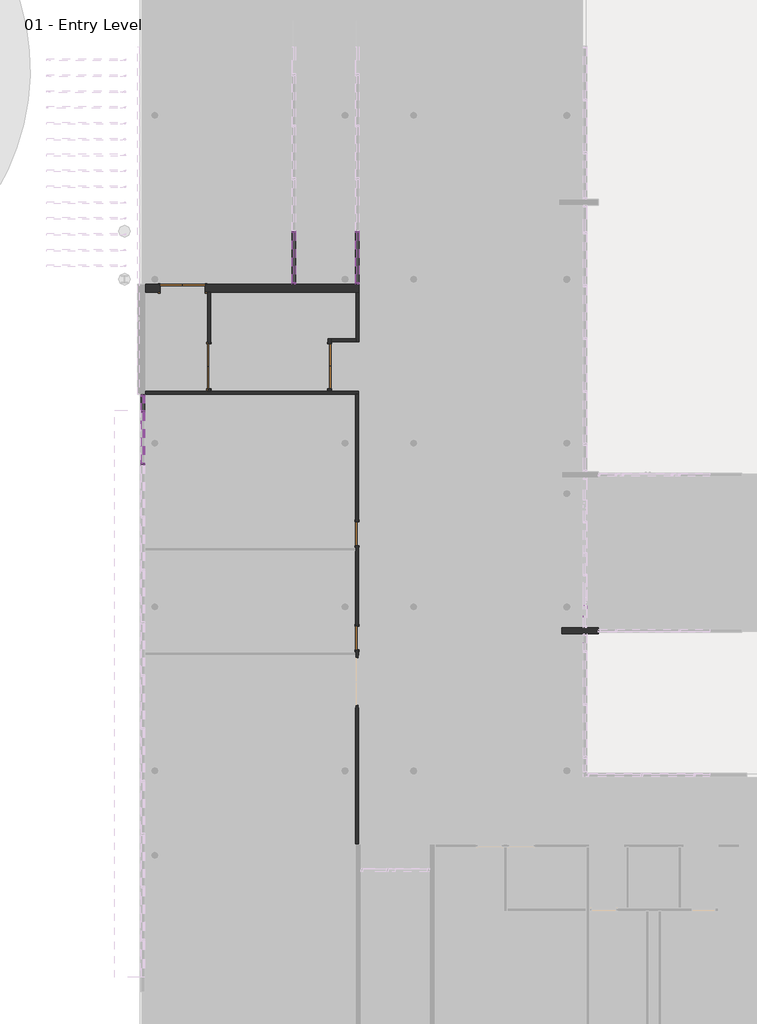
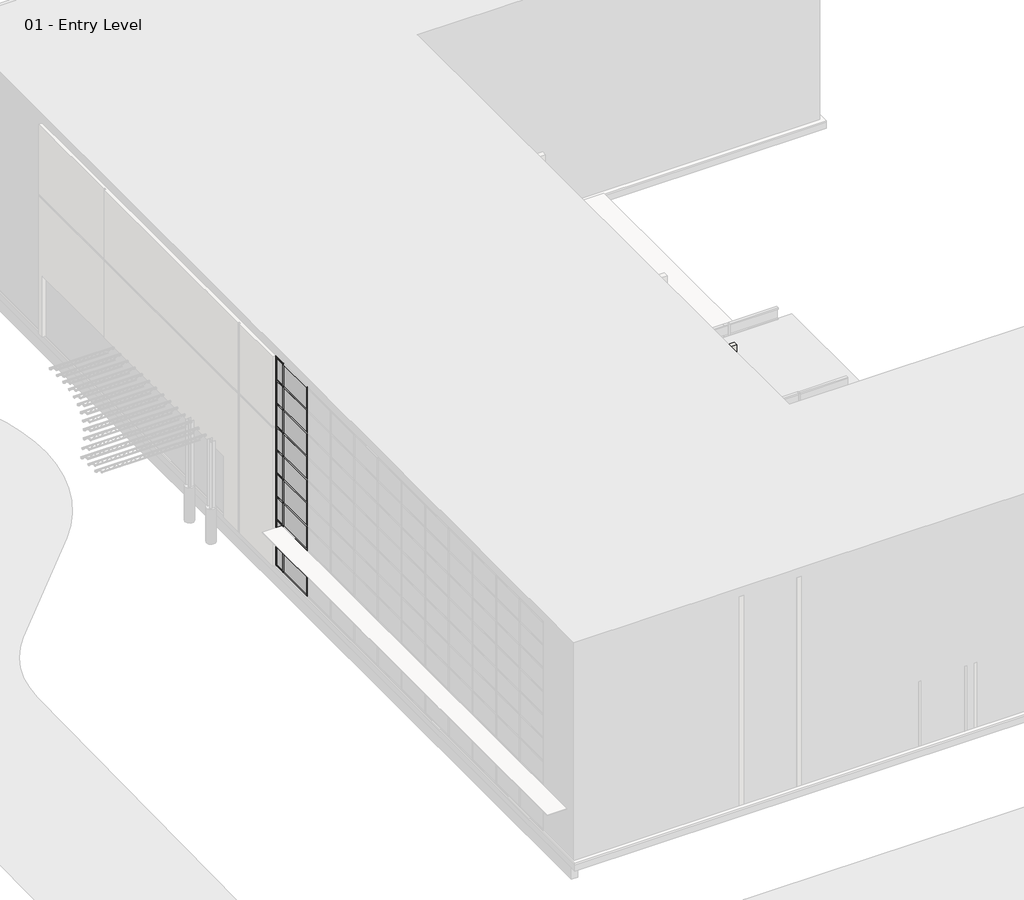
# One storey, part 12 of 35: 72 members, 24 plates, 8 walls, 5 doors.
"""IFC4 building model written with IfcOpenShell, lengths in millimetres."""

from ifc_helpers import new_model, si_unit, frame, origin, origin_with_axes, place, context, project, spatial, polyline, outline, extrude, faceted_brep, transform, mapped, element, save
from components import door_bdee7c2d, door_80fcf8b2, door_305aa2a5, member_2b49869a, member_75074519, member_18e22e2d, member_9193c932, member_391b434c, member_9e90ae50, member_4f18b2ac, member_7a85b04f, member_fbc627c7, member_73c075c8, member_ece69ae7, member_e5d39754, member_5aa65f11, member_47bfaf8a, member_5d67b9fc, member_c327c56d, member_ec52078f, member_cc8ff548, system_panel_glazed_ac179f57, system_panel_glazed_1b9d6098, system_panel_glazed_70da479d, system_panel_glazed_9419342d, system_panel_glazed_b3ddbf8e, system_panel_glazed_346f81d9, system_panel_glazed_d60e1f89, system_panel_solid_b376696c, system_panel_solid_77e8b053, system_panel_solid_89b132cb, system_panel_solid_f04240b3

model = new_model("IFC4")

# Units and contexts
model_context = context("Model", 3, world=origin())
ifc_project = project(units=[si_unit("LENGTHUNIT", "METRE", prefix="MILLI")], contexts=[model_context])

# Site, building, storey
site = spatial("IfcSite", under=ifc_project)
building = spatial("IfcBuilding", under=site)
storey = spatial("IfcBuildingStorey", under=building, Name="01 - Entry Level", Elevation=0.0)

# Doors
placement = place(None, origin())
door_shape = door_bdee7c2d(model_context)
element("IfcDoor", 1, ObjectType="Double-Flush : 68\" x 84\"", at=placement, inside=storey, context=model_context, shape_type="MappedRepresentation", body=[
    mapped(door_shape, transform((1702.7207476, 29709.9875, 0.0), x_axis=(1.0, 0.0, 0.0), y_axis=(0.0, 1.0, 0.0), z_axis=(0.0, 0.0, 1.0))),
])
door_2_shape = door_80fcf8b2(model_context)
element("IfcDoor", 2, ObjectType="Double-Flush : 68\" x 84\"", at=placement, inside=storey, context=model_context, shape_type="MappedRepresentation", body=[
    mapped(door_2_shape, transform((2718.7207476, 26711.2, 0.0), x_axis=(0.0, 1.0, 0.0), y_axis=(-1.0, 0.0, 0.0), z_axis=(0.0, 0.0, 1.0))),
])
element("IfcDoor", 3, ObjectType="Double-Flush : 68\" x 84\"", at=placement, inside=storey, context=model_context, shape_type="MappedRepresentation", body=[
    mapped(door_2_shape, transform((7354.2207476, 26711.2, 0.0), x_axis=(0.0, -1.0, 0.0), y_axis=(1.0, 0.0, 0.0), z_axis=(0.0, 0.0, 1.0))),
])
door_3_shape = door_305aa2a5(model_context)
element("IfcDoor", 4, ObjectType="Single-Flush : 36\" x 84\"", at=placement, inside=storey, context=model_context, shape_type="MappedRepresentation", body=[
    mapped(door_3_shape, transform((8414.6707476, 20285.0, 0.0), x_axis=(0.0, -1.0, 0.0), y_axis=(1.0, 0.0, 0.0), z_axis=(0.0, 0.0, 1.0))),
])
element("IfcDoor", 5, ObjectType="Single-Flush : 36\" x 84\"", at=placement, inside=storey, context=model_context, shape_type="MappedRepresentation", body=[
    mapped(door_3_shape, transform((8414.6707476, 16271.8, 0.0), x_axis=(0.0, -1.0, 0.0), y_axis=(1.0, 0.0, 0.0), z_axis=(0.0, 0.0, 1.0))),
])

# Members
member_shape = member_2b49869a(model_context)
element("IfcMember", 6, ObjectType="Rectangular Mullion : 2.5\" x 5\" rectangular", at=placement, inside=storey, context=model_context, shape_type="MappedRepresentation", body=[
    mapped(member_shape, transform((178.7207476, 24984.0, 9753.6), x_axis=(0.0, -1.0, 0.0), y_axis=(-1.0, 0.0, 0.0), z_axis=(0.0, 0.0, -1.0))),
])
element("IfcMember", 7, ObjectType="Rectangular Mullion : 2.5\" x 5\" rectangular", at=placement, inside=storey, context=model_context, shape_type="MappedRepresentation", body=[
    mapped(member_shape, transform((178.7207476, 22952.0, 9753.6), x_axis=(0.0, -1.0, 0.0), y_axis=(-1.0, 0.0, 0.0), z_axis=(0.0, 0.0, -1.0))),
])
member_2_shape = member_75074519(model_context)
element("IfcMember", 8, ObjectType="Rectangular Mullion : 2.5\" x 5\" rectangular", at=placement, inside=storey, context=model_context, shape_type="MappedRepresentation", body=[
    mapped(member_2_shape, transform((178.7207476, 25631.7, 10972.8), x_axis=(0.0, 1.0, 0.0), y_axis=(-1.0, 0.0, 0.0), z_axis=(0.0, 0.0, 1.0))),
])
element("IfcMember", 9, ObjectType="Rectangular Mullion : 2.5\" x 5\" rectangular", at=placement, inside=storey, context=model_context, shape_type="MappedRepresentation", body=[
    mapped(member_2_shape, transform((17184.0207476, 16665.5, 10972.8), x_axis=(0.0, -1.0, 0.0), y_axis=(1.0, 0.0, 0.0), z_axis=(0.0, 0.0, 1.0))),
])
member_3_shape = member_18e22e2d(model_context)
element("IfcMember", 10, ObjectType="Rectangular Mullion : 2.5\" x 5\" rectangular", at=placement, inside=storey, context=model_context, shape_type="MappedRepresentation", body=[
    mapped(member_3_shape, transform((5982.6207476, 31895.975, 2438.4), x_axis=(0.0, 1.0, 0.0), y_axis=(1.0, 0.0, 0.0), z_axis=(0.0, 0.0, -1.0))),
])
element("IfcMember", 11, ObjectType="Rectangular Mullion : 2.5\" x 5\" rectangular", at=placement, inside=storey, context=model_context, shape_type="MappedRepresentation", body=[
    mapped(member_3_shape, transform((8421.0207476, 31895.975, 2438.4), x_axis=(0.0, 1.0, 0.0), y_axis=(1.0, 0.0, 0.0), z_axis=(0.0, 0.0, -1.0))),
])
member_4_shape = member_9193c932(model_context)
element("IfcMember", 12, ObjectType="Rectangular Mullion : 2.5\" x 5\" rectangular", at=placement, inside=storey, context=model_context, shape_type="MappedRepresentation", body=[
    mapped(member_4_shape, transform((5982.6207476, 29863.975, 3403.6), x_axis=(0.0, -1.0, 0.0), y_axis=(1.0, 0.0, 0.0), z_axis=(0.0, 0.0, 1.0))),
])
element("IfcMember", 13, ObjectType="Rectangular Mullion : 2.5\" x 5\" rectangular", at=placement, inside=storey, context=model_context, shape_type="MappedRepresentation", body=[
    mapped(member_4_shape, transform((8421.0207476, 29863.975, 3403.6), x_axis=(0.0, -1.0, 0.0), y_axis=(1.0, 0.0, 0.0), z_axis=(0.0, 0.0, 1.0))),
])
member_5_shape = member_391b434c(model_context)
element("IfcMember", 14, ObjectType="Rectangular Mullion : 2.5\" x 5\" rectangular", at=placement, inside=storey, context=model_context, shape_type="MappedRepresentation", body=[
    mapped(member_5_shape, transform((178.7207476, 24952.25, 0.0), x_axis=(0.0, 0.0, -1.0), y_axis=(-1.0, 0.0, 0.0), z_axis=(0.0, 1.0, 0.0))),
])
member_6_shape = member_9e90ae50(model_context)
element("IfcMember", 15, ObjectType="Rectangular Mullion : 2.5\" x 5\" rectangular", at=placement, inside=storey, context=model_context, shape_type="MappedRepresentation", body=[
    mapped(member_6_shape, transform((178.7207476, 22983.75, 9753.6), x_axis=(0.0, 0.0, 1.0), y_axis=(-1.0, 0.0, 0.0), z_axis=(0.0, -1.0, 0.0))),
])
element("IfcMember", 16, ObjectType="Rectangular Mullion : 2.5\" x 5\" rectangular", at=placement, inside=storey, context=model_context, shape_type="MappedRepresentation", body=[
    mapped(member_shape, transform((178.7207476, 24984.0, 0.0), x_axis=(0.0, -1.0, 0.0), y_axis=(-1.0, 0.0, 0.0), z_axis=(0.0, 0.0, -1.0))),
])
element("IfcMember", 17, ObjectType="Rectangular Mullion : 2.5\" x 5\" rectangular", at=placement, inside=storey, context=model_context, shape_type="MappedRepresentation", body=[
    mapped(member_shape, transform((178.7207476, 22952.0, 0.0), x_axis=(0.0, -1.0, 0.0), y_axis=(-1.0, 0.0, 0.0), z_axis=(0.0, 0.0, -1.0))),
])
element("IfcMember", 18, ObjectType="Rectangular Mullion : 2.5\" x 5\" rectangular", at=placement, inside=storey, context=model_context, shape_type="MappedRepresentation", body=[
    mapped(member_shape, transform((178.7207476, 24984.0, 1219.2), x_axis=(0.0, -1.0, 0.0), y_axis=(-1.0, 0.0, 0.0), z_axis=(0.0, 0.0, -1.0))),
])
element("IfcMember", 19, ObjectType="Rectangular Mullion : 2.5\" x 5\" rectangular", at=placement, inside=storey, context=model_context, shape_type="MappedRepresentation", body=[
    mapped(member_shape, transform((178.7207476, 22952.0, 1219.2), x_axis=(0.0, -1.0, 0.0), y_axis=(-1.0, 0.0, 0.0), z_axis=(0.0, 0.0, -1.0))),
])
element("IfcMember", 20, ObjectType="Rectangular Mullion : 2.5\" x 5\" rectangular", at=placement, inside=storey, context=model_context, shape_type="MappedRepresentation", body=[
    mapped(member_shape, transform((178.7207476, 24984.0, 2438.4), x_axis=(0.0, -1.0, 0.0), y_axis=(-1.0, 0.0, 0.0), z_axis=(0.0, 0.0, -1.0))),
])
element("IfcMember", 21, ObjectType="Rectangular Mullion : 2.5\" x 5\" rectangular", at=placement, inside=storey, context=model_context, shape_type="MappedRepresentation", body=[
    mapped(member_shape, transform((178.7207476, 22952.0, 2438.4), x_axis=(0.0, -1.0, 0.0), y_axis=(-1.0, 0.0, 0.0), z_axis=(0.0, 0.0, -1.0))),
])
element("IfcMember", 22, ObjectType="Rectangular Mullion : 2.5\" x 5\" rectangular", at=placement, inside=storey, context=model_context, shape_type="MappedRepresentation", body=[
    mapped(member_shape, transform((178.7207476, 24984.0, 3657.6), x_axis=(0.0, -1.0, 0.0), y_axis=(-1.0, 0.0, 0.0), z_axis=(0.0, 0.0, -1.0))),
])
element("IfcMember", 23, ObjectType="Rectangular Mullion : 2.5\" x 5\" rectangular", at=placement, inside=storey, context=model_context, shape_type="MappedRepresentation", body=[
    mapped(member_shape, transform((178.7207476, 22952.0, 3657.6), x_axis=(0.0, -1.0, 0.0), y_axis=(-1.0, 0.0, 0.0), z_axis=(0.0, 0.0, -1.0))),
])
element("IfcMember", 24, ObjectType="Rectangular Mullion : 2.5\" x 5\" rectangular", at=placement, inside=storey, context=model_context, shape_type="MappedRepresentation", body=[
    mapped(member_shape, transform((178.7207476, 24984.0, 4876.8), x_axis=(0.0, -1.0, 0.0), y_axis=(-1.0, 0.0, 0.0), z_axis=(0.0, 0.0, -1.0))),
])
element("IfcMember", 25, ObjectType="Rectangular Mullion : 2.5\" x 5\" rectangular", at=placement, inside=storey, context=model_context, shape_type="MappedRepresentation", body=[
    mapped(member_shape, transform((178.7207476, 22952.0, 4876.8), x_axis=(0.0, -1.0, 0.0), y_axis=(-1.0, 0.0, 0.0), z_axis=(0.0, 0.0, -1.0))),
])
element("IfcMember", 26, ObjectType="Rectangular Mullion : 2.5\" x 5\" rectangular", at=placement, inside=storey, context=model_context, shape_type="MappedRepresentation", body=[
    mapped(member_shape, transform((178.7207476, 24984.0, 6096.0), x_axis=(0.0, -1.0, 0.0), y_axis=(-1.0, 0.0, 0.0), z_axis=(0.0, 0.0, -1.0))),
])
element("IfcMember", 27, ObjectType="Rectangular Mullion : 2.5\" x 5\" rectangular", at=placement, inside=storey, context=model_context, shape_type="MappedRepresentation", body=[
    mapped(member_shape, transform((178.7207476, 22952.0, 6096.0), x_axis=(0.0, -1.0, 0.0), y_axis=(-1.0, 0.0, 0.0), z_axis=(0.0, 0.0, -1.0))),
])
element("IfcMember", 28, ObjectType="Rectangular Mullion : 2.5\" x 5\" rectangular", at=placement, inside=storey, context=model_context, shape_type="MappedRepresentation", body=[
    mapped(member_shape, transform((178.7207476, 24984.0, 7315.2), x_axis=(0.0, -1.0, 0.0), y_axis=(-1.0, 0.0, 0.0), z_axis=(0.0, 0.0, -1.0))),
])
element("IfcMember", 29, ObjectType="Rectangular Mullion : 2.5\" x 5\" rectangular", at=placement, inside=storey, context=model_context, shape_type="MappedRepresentation", body=[
    mapped(member_shape, transform((178.7207476, 22952.0, 7315.2), x_axis=(0.0, -1.0, 0.0), y_axis=(-1.0, 0.0, 0.0), z_axis=(0.0, 0.0, -1.0))),
])
element("IfcMember", 30, ObjectType="Rectangular Mullion : 2.5\" x 5\" rectangular", at=placement, inside=storey, context=model_context, shape_type="MappedRepresentation", body=[
    mapped(member_shape, transform((178.7207476, 24984.0, 8534.4), x_axis=(0.0, -1.0, 0.0), y_axis=(-1.0, 0.0, 0.0), z_axis=(0.0, 0.0, -1.0))),
])
element("IfcMember", 31, ObjectType="Rectangular Mullion : 2.5\" x 5\" rectangular", at=placement, inside=storey, context=model_context, shape_type="MappedRepresentation", body=[
    mapped(member_shape, transform((178.7207476, 22952.0, 8534.4), x_axis=(0.0, -1.0, 0.0), y_axis=(-1.0, 0.0, 0.0), z_axis=(0.0, 0.0, -1.0))),
])
member_7_shape = member_4f18b2ac(model_context)
element("IfcMember", 32, ObjectType="Rectangular Mullion : 2.5\" x 5\" rectangular", at=placement, inside=storey, context=model_context, shape_type="MappedRepresentation", body=[
    mapped(member_7_shape, transform((5982.6207476, 29927.475, 0.0), x_axis=(0.0, 0.0, -1.0), y_axis=(1.0, 0.0, 0.0), z_axis=(0.0, -1.0, 0.0))),
])
element("IfcMember", 33, ObjectType="Rectangular Mullion : 2.5\" x 5\" rectangular", at=placement, inside=storey, context=model_context, shape_type="MappedRepresentation", body=[
    mapped(member_7_shape, transform((8421.0207476, 29927.475, 0.0), x_axis=(0.0, 0.0, -1.0), y_axis=(1.0, 0.0, 0.0), z_axis=(0.0, -1.0, 0.0))),
])
element("IfcMember", 34, ObjectType="Rectangular Mullion : 2.5\" x 5\" rectangular", at=placement, inside=storey, context=model_context, shape_type="MappedRepresentation", body=[
    mapped(member_7_shape, transform((5982.6207476, 31864.225, 3403.6), x_axis=(0.0, 0.0, 1.0), y_axis=(1.0, 0.0, 0.0), z_axis=(0.0, 1.0, 0.0))),
])
element("IfcMember", 35, ObjectType="Rectangular Mullion : 2.5\" x 5\" rectangular", at=placement, inside=storey, context=model_context, shape_type="MappedRepresentation", body=[
    mapped(member_7_shape, transform((8421.0207476, 31864.225, 3403.6), x_axis=(0.0, 0.0, 1.0), y_axis=(1.0, 0.0, 0.0), z_axis=(0.0, 1.0, 0.0))),
])
element("IfcMember", 36, ObjectType="Rectangular Mullion : 2.5\" x 5\" rectangular", at=placement, inside=storey, context=model_context, shape_type="MappedRepresentation", body=[
    mapped(member_5_shape, transform((5982.6207476, 31927.725, 0.0), x_axis=(0.0, 0.0, -1.0), y_axis=(1.0, 0.0, 0.0), z_axis=(0.0, -1.0, 0.0))),
])
element("IfcMember", 37, ObjectType="Rectangular Mullion : 2.5\" x 5\" rectangular", at=placement, inside=storey, context=model_context, shape_type="MappedRepresentation", body=[
    mapped(member_5_shape, transform((8421.0207476, 31927.725, 0.0), x_axis=(0.0, 0.0, -1.0), y_axis=(1.0, 0.0, 0.0), z_axis=(0.0, -1.0, 0.0))),
])
member_8_shape = member_7a85b04f(model_context)
element("IfcMember", 38, ObjectType="Rectangular Mullion : 2.5\" x 5\" rectangular", at=placement, inside=storey, context=model_context, shape_type="MappedRepresentation", body=[
    mapped(member_8_shape, transform((5982.6207476, 31864.225, 1219.2), x_axis=(0.0, 0.0, 1.0), y_axis=(1.0, 0.0, 0.0), z_axis=(0.0, 1.0, 0.0))),
])
element("IfcMember", 39, ObjectType="Rectangular Mullion : 2.5\" x 5\" rectangular", at=placement, inside=storey, context=model_context, shape_type="MappedRepresentation", body=[
    mapped(member_8_shape, transform((5982.6207476, 31864.225, 2438.4), x_axis=(0.0, 0.0, 1.0), y_axis=(1.0, 0.0, 0.0), z_axis=(0.0, 1.0, 0.0))),
])
element("IfcMember", 40, ObjectType="Rectangular Mullion : 2.5\" x 5\" rectangular", at=placement, inside=storey, context=model_context, shape_type="MappedRepresentation", body=[
    mapped(member_8_shape, transform((8421.0207476, 31864.225, 1219.2), x_axis=(0.0, 0.0, 1.0), y_axis=(1.0, 0.0, 0.0), z_axis=(0.0, 1.0, 0.0))),
])
element("IfcMember", 41, ObjectType="Rectangular Mullion : 2.5\" x 5\" rectangular", at=placement, inside=storey, context=model_context, shape_type="MappedRepresentation", body=[
    mapped(member_8_shape, transform((8421.0207476, 31864.225, 2438.4), x_axis=(0.0, 0.0, 1.0), y_axis=(1.0, 0.0, 0.0), z_axis=(0.0, 1.0, 0.0))),
])
element("IfcMember", 42, ObjectType="Rectangular Mullion : 2.5\" x 5\" rectangular", at=placement, inside=storey, context=model_context, shape_type="MappedRepresentation", body=[
    mapped(member_shape, transform((5982.6207476, 31895.975, 0.0), x_axis=(0.0, 1.0, 0.0), y_axis=(1.0, 0.0, 0.0), z_axis=(0.0, 0.0, -1.0))),
])
element("IfcMember", 43, ObjectType="Rectangular Mullion : 2.5\" x 5\" rectangular", at=placement, inside=storey, context=model_context, shape_type="MappedRepresentation", body=[
    mapped(member_shape, transform((8421.0207476, 31895.975, 0.0), x_axis=(0.0, 1.0, 0.0), y_axis=(1.0, 0.0, 0.0), z_axis=(0.0, 0.0, -1.0))),
])
member_9_shape = member_fbc627c7(model_context)
element("IfcMember", 44, ObjectType="Rectangular Mullion : 2.5\" x 5\" rectangular", at=placement, inside=storey, context=model_context, shape_type="MappedRepresentation", body=[
    mapped(member_9_shape, transform((17184.0207476, 16665.5, 7598.3874103), x_axis=(0.0, -0.31622776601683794, -0.9486832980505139), y_axis=(1.0, 0.0, 0.0), z_axis=(0.0, -0.9486832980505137, 0.3162277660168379))),
])
element("IfcMember", 45, ObjectType="Rectangular Mullion : 2.5\" x 5\" rectangular", at=placement, inside=storey, context=model_context, shape_type="MappedRepresentation", body=[
    mapped(member_2_shape, transform((17184.0207476, 16436.9, 0.0), x_axis=(0.0, 1.0, 0.0), y_axis=(1.0, 0.0, 0.0), z_axis=(0.0, 0.0, -1.0))),
])
element("IfcMember", 46, ObjectType="Rectangular Mullion : 2.5\" x 5\" rectangular", at=placement, inside=storey, context=model_context, shape_type="MappedRepresentation", body=[
    mapped(member_2_shape, transform((17184.0207476, 16436.9, 1219.2), x_axis=(0.0, 1.0, 0.0), y_axis=(1.0, 0.0, 0.0), z_axis=(0.0, 0.0, -1.0))),
])
element("IfcMember", 47, ObjectType="Rectangular Mullion : 2.5\" x 5\" rectangular", at=placement, inside=storey, context=model_context, shape_type="MappedRepresentation", body=[
    mapped(member_2_shape, transform((178.7207476, 25631.7, 1219.2), x_axis=(0.0, 1.0, 0.0), y_axis=(-1.0, 0.0, 0.0), z_axis=(0.0, 0.0, 1.0))),
])
element("IfcMember", 48, ObjectType="Rectangular Mullion : 2.5\" x 5\" rectangular", at=placement, inside=storey, context=model_context, shape_type="MappedRepresentation", body=[
    mapped(member_2_shape, transform((178.7207476, 25631.7, 2438.4), x_axis=(0.0, 1.0, 0.0), y_axis=(-1.0, 0.0, 0.0), z_axis=(0.0, 0.0, 1.0))),
])
element("IfcMember", 49, ObjectType="Rectangular Mullion : 2.5\" x 5\" rectangular", at=placement, inside=storey, context=model_context, shape_type="MappedRepresentation", body=[
    mapped(member_2_shape, transform((178.7207476, 25631.7, 3657.6), x_axis=(0.0, 1.0, 0.0), y_axis=(-1.0, 0.0, 0.0), z_axis=(0.0, 0.0, 1.0))),
])
element("IfcMember", 50, ObjectType="Rectangular Mullion : 2.5\" x 5\" rectangular", at=placement, inside=storey, context=model_context, shape_type="MappedRepresentation", body=[
    mapped(member_2_shape, transform((178.7207476, 25631.7, 4876.8), x_axis=(0.0, 1.0, 0.0), y_axis=(-1.0, 0.0, 0.0), z_axis=(0.0, 0.0, 1.0))),
])
element("IfcMember", 51, ObjectType="Rectangular Mullion : 2.5\" x 5\" rectangular", at=placement, inside=storey, context=model_context, shape_type="MappedRepresentation", body=[
    mapped(member_2_shape, transform((178.7207476, 25631.7, 6096.0), x_axis=(0.0, 1.0, 0.0), y_axis=(-1.0, 0.0, 0.0), z_axis=(0.0, 0.0, 1.0))),
])
element("IfcMember", 52, ObjectType="Rectangular Mullion : 2.5\" x 5\" rectangular", at=placement, inside=storey, context=model_context, shape_type="MappedRepresentation", body=[
    mapped(member_2_shape, transform((178.7207476, 25631.7, 7315.2), x_axis=(0.0, 1.0, 0.0), y_axis=(-1.0, 0.0, 0.0), z_axis=(0.0, 0.0, 1.0))),
])
element("IfcMember", 53, ObjectType="Rectangular Mullion : 2.5\" x 5\" rectangular", at=placement, inside=storey, context=model_context, shape_type="MappedRepresentation", body=[
    mapped(member_2_shape, transform((178.7207476, 25631.7, 8534.4), x_axis=(0.0, 1.0, 0.0), y_axis=(-1.0, 0.0, 0.0), z_axis=(0.0, 0.0, 1.0))),
])
element("IfcMember", 54, ObjectType="Rectangular Mullion : 2.5\" x 5\" rectangular", at=placement, inside=storey, context=model_context, shape_type="MappedRepresentation", body=[
    mapped(member_2_shape, transform((178.7207476, 25631.7, 9753.6), x_axis=(0.0, 1.0, 0.0), y_axis=(-1.0, 0.0, 0.0), z_axis=(0.0, 0.0, 1.0))),
])
element("IfcMember", 55, ObjectType="Rectangular Mullion : 2.5\" x 5\" rectangular", at=placement, inside=storey, context=model_context, shape_type="MappedRepresentation", body=[
    mapped(member_2_shape, transform((5982.6207476, 29863.975, 1219.2), x_axis=(0.0, -1.0, 0.0), y_axis=(1.0, 0.0, 0.0), z_axis=(0.0, 0.0, 1.0))),
])
element("IfcMember", 56, ObjectType="Rectangular Mullion : 2.5\" x 5\" rectangular", at=placement, inside=storey, context=model_context, shape_type="MappedRepresentation", body=[
    mapped(member_2_shape, transform((8421.0207476, 29863.975, 1219.2), x_axis=(0.0, -1.0, 0.0), y_axis=(1.0, 0.0, 0.0), z_axis=(0.0, 0.0, 1.0))),
])
member_10_shape = member_73c075c8(model_context)
element("IfcMember", 57, ObjectType="Rectangular Mullion : 2.5\" x 5\" rectangular", at=placement, inside=storey, context=model_context, shape_type="MappedRepresentation", body=[
    mapped(member_10_shape, transform((178.7207476, 25568.2, 0.0), x_axis=(0.0, 0.0, -1.0), y_axis=(-1.0, 0.0, 0.0), z_axis=(0.0, 1.0, 0.0))),
])
element("IfcMember", 58, ObjectType="Rectangular Mullion : 2.5\" x 5\" rectangular", at=placement, inside=storey, context=model_context, shape_type="MappedRepresentation", body=[
    mapped(member_10_shape, transform((178.7207476, 25015.75, 10972.8), x_axis=(0.0, 0.0, 1.0), y_axis=(-1.0, 0.0, 0.0), z_axis=(0.0, -1.0, 0.0))),
])
member_11_shape = member_ece69ae7(model_context)
element("IfcMember", 59, ObjectType="Rectangular Mullion : 2.5\" x 5\" rectangular", at=placement, inside=storey, context=model_context, shape_type="MappedRepresentation", body=[
    mapped(member_11_shape, transform((178.7207476, 25015.75, 1219.2), x_axis=(0.0, 0.0, 1.0), y_axis=(-1.0, 0.0, 0.0), z_axis=(0.0, -1.0, 0.0))),
])
element("IfcMember", 60, ObjectType="Rectangular Mullion : 2.5\" x 5\" rectangular", at=placement, inside=storey, context=model_context, shape_type="MappedRepresentation", body=[
    mapped(member_11_shape, transform((178.7207476, 25015.75, 2438.4), x_axis=(0.0, 0.0, 1.0), y_axis=(-1.0, 0.0, 0.0), z_axis=(0.0, -1.0, 0.0))),
])
element("IfcMember", 61, ObjectType="Rectangular Mullion : 2.5\" x 5\" rectangular", at=placement, inside=storey, context=model_context, shape_type="MappedRepresentation", body=[
    mapped(member_11_shape, transform((178.7207476, 25015.75, 3657.6), x_axis=(0.0, 0.0, 1.0), y_axis=(-1.0, 0.0, 0.0), z_axis=(0.0, -1.0, 0.0))),
])
element("IfcMember", 62, ObjectType="Rectangular Mullion : 2.5\" x 5\" rectangular", at=placement, inside=storey, context=model_context, shape_type="MappedRepresentation", body=[
    mapped(member_11_shape, transform((178.7207476, 25015.75, 4876.8), x_axis=(0.0, 0.0, 1.0), y_axis=(-1.0, 0.0, 0.0), z_axis=(0.0, -1.0, 0.0))),
])
element("IfcMember", 63, ObjectType="Rectangular Mullion : 2.5\" x 5\" rectangular", at=placement, inside=storey, context=model_context, shape_type="MappedRepresentation", body=[
    mapped(member_11_shape, transform((178.7207476, 25015.75, 6096.0), x_axis=(0.0, 0.0, 1.0), y_axis=(-1.0, 0.0, 0.0), z_axis=(0.0, -1.0, 0.0))),
])
element("IfcMember", 64, ObjectType="Rectangular Mullion : 2.5\" x 5\" rectangular", at=placement, inside=storey, context=model_context, shape_type="MappedRepresentation", body=[
    mapped(member_11_shape, transform((178.7207476, 25015.75, 7315.2), x_axis=(0.0, 0.0, 1.0), y_axis=(-1.0, 0.0, 0.0), z_axis=(0.0, -1.0, 0.0))),
])
element("IfcMember", 65, ObjectType="Rectangular Mullion : 2.5\" x 5\" rectangular", at=placement, inside=storey, context=model_context, shape_type="MappedRepresentation", body=[
    mapped(member_11_shape, transform((178.7207476, 25015.75, 8534.4), x_axis=(0.0, 0.0, 1.0), y_axis=(-1.0, 0.0, 0.0), z_axis=(0.0, -1.0, 0.0))),
])
element("IfcMember", 66, ObjectType="Rectangular Mullion : 2.5\" x 5\" rectangular", at=placement, inside=storey, context=model_context, shape_type="MappedRepresentation", body=[
    mapped(member_11_shape, transform((178.7207476, 25015.75, 9753.6), x_axis=(0.0, 0.0, 1.0), y_axis=(-1.0, 0.0, 0.0), z_axis=(0.0, -1.0, 0.0))),
])
member_12_shape = member_e5d39754(model_context)
element("IfcMember", 67, ObjectType="Rectangular Mullion : 2.5\" x 5\" rectangular", at=placement, inside=storey, context=model_context, shape_type="MappedRepresentation", body=[
    mapped(member_12_shape, transform((17184.0207476, 16373.4, 10972.8), x_axis=(0.0, 0.0, 1.0), y_axis=(1.0, 0.0, 0.0), z_axis=(0.0, 1.0, 0.0))),
])
member_13_shape = member_5aa65f11(model_context)
element("IfcMember", 68, ObjectType="Rectangular Mullion : 2.5\" x 5\" rectangular", at=placement, inside=storey, context=model_context, shape_type="MappedRepresentation", body=[
    mapped(member_13_shape, transform((17752.4115197, 16551.2, 0.0), x_axis=(0.0, 0.0, -1.0), y_axis=(0.0, -1.0, 0.0), z_axis=(-1.0, 0.0, 0.0))),
])
member_14_shape = member_47bfaf8a(model_context)
element("IfcMember", 69, ObjectType="Rectangular Mullion : 2.5\" x 5\" rectangular", at=placement, inside=storey, context=model_context, shape_type="MappedRepresentation", body=[
    mapped(member_14_shape, transform((17688.9115197, 16551.2, 7315.2), x_axis=(-1.0, 0.0, 0.0), y_axis=(0.0, -1.0, 0.0), z_axis=(0.0, 0.0, 1.0))),
])
member_15_shape = member_5d67b9fc(model_context)
element("IfcMember", 70, ObjectType="Rectangular Mullion : 2.5\" x 5\" rectangular", at=placement, inside=storey, context=model_context, shape_type="MappedRepresentation", body=[
    mapped(member_15_shape, transform((5982.6207476, 31895.975, 2165.35), x_axis=(0.0, 1.0, 0.0), y_axis=(1.0, 0.0, 0.0), z_axis=(0.0, 0.0, -1.0))),
])
element("IfcMember", 71, ObjectType="Rectangular Mullion : 2.5\" x 5\" rectangular", at=placement, inside=storey, context=model_context, shape_type="MappedRepresentation", body=[
    mapped(member_15_shape, transform((8421.0207476, 31895.975, 2165.35), x_axis=(0.0, 1.0, 0.0), y_axis=(1.0, 0.0, 0.0), z_axis=(0.0, 0.0, -1.0))),
])
member_16_shape = member_c327c56d(model_context)
element("IfcMember", 72, ObjectType="Rectangular Mullion : 2.5\" x 5\" rectangular", at=placement, inside=storey, context=model_context, shape_type="MappedRepresentation", body=[
    mapped(member_16_shape, transform((5982.6207476, 29863.975, 2438.4), x_axis=(0.0, -1.0, 0.0), y_axis=(1.0, 0.0, 0.0), z_axis=(0.0, 0.0, 1.0))),
])
element("IfcMember", 73, ObjectType="Rectangular Mullion : 2.5\" x 5\" rectangular", at=placement, inside=storey, context=model_context, shape_type="MappedRepresentation", body=[
    mapped(member_16_shape, transform((8421.0207476, 29863.975, 2438.4), x_axis=(0.0, -1.0, 0.0), y_axis=(1.0, 0.0, 0.0), z_axis=(0.0, 0.0, 1.0))),
])
member_17_shape = member_ec52078f(model_context)
element("IfcMember", 74, ObjectType="Rectangular Mullion : 2.5\" x 5\" rectangular", at=placement, inside=storey, context=model_context, shape_type="MappedRepresentation", body=[
    mapped(member_17_shape, transform((5982.6207476, 31895.975, 1219.2), x_axis=(0.0, 1.0, 0.0), y_axis=(1.0, 0.0, 0.0), z_axis=(0.0, 0.0, -1.0))),
])
element("IfcMember", 75, ObjectType="Rectangular Mullion : 2.5\" x 5\" rectangular", at=placement, inside=storey, context=model_context, shape_type="MappedRepresentation", body=[
    mapped(member_17_shape, transform((8421.0207476, 31895.975, 1219.2), x_axis=(0.0, 1.0, 0.0), y_axis=(1.0, 0.0, 0.0), z_axis=(0.0, 0.0, -1.0))),
])
member_18_shape = member_cc8ff548(model_context)
element("IfcMember", 76, ObjectType="Rectangular Mullion : 2.5\" x 5\" rectangular", at=placement, inside=storey, context=model_context, shape_type="MappedRepresentation", body=[
    mapped(member_18_shape, transform((5982.6207476, 29863.975, 2165.35), x_axis=(0.0, -1.0, 0.0), y_axis=(1.0, 0.0, 0.0), z_axis=(0.0, 0.0, 1.0))),
])
element("IfcMember", 77, ObjectType="Rectangular Mullion : 2.5\" x 5\" rectangular", at=placement, inside=storey, context=model_context, shape_type="MappedRepresentation", body=[
    mapped(member_18_shape, transform((8421.0207476, 29863.975, 2165.35), x_axis=(0.0, -1.0, 0.0), y_axis=(1.0, 0.0, 0.0), z_axis=(0.0, 0.0, 1.0))),
])

# Plates
system_panel_glazed_shape = system_panel_glazed_ac179f57(model_context)
element("IfcPlate", 78, ObjectType="System Panel : Glazed", at=placement, inside=storey, context=model_context, shape_type="MappedRepresentation", body=[
    mapped(system_panel_glazed_shape, transform((5982.6207476, 30895.85, 63.5), x_axis=(0.0, 1.0, 0.0), y_axis=(-1.0, 0.0, 0.0), z_axis=(0.0, 0.0, 1.0))),
])
element("IfcPlate", 79, ObjectType="System Panel : Glazed", at=placement, inside=storey, context=model_context, shape_type="MappedRepresentation", body=[
    mapped(system_panel_glazed_shape, transform((8421.0207476, 30895.85, 63.5), x_axis=(0.0, 1.0, 0.0), y_axis=(-1.0, 0.0, 0.0), z_axis=(0.0, 0.0, 1.0))),
])
system_panel_glazed_2_shape = system_panel_glazed_1b9d6098(model_context)
element("IfcPlate", 80, ObjectType="System Panel : Glazed", at=placement, inside=storey, context=model_context, shape_type="MappedRepresentation", body=[
    mapped(system_panel_glazed_2_shape, transform((178.7207476, 23968.0, 63.5), x_axis=(0.0, -1.0, 0.0), y_axis=(1.0, 0.0, 0.0), z_axis=(0.0, 0.0, 1.0))),
])
system_panel_glazed_3_shape = system_panel_glazed_70da479d(model_context)
element("IfcPlate", 81, ObjectType="System Panel : Glazed", at=placement, inside=storey, context=model_context, shape_type="MappedRepresentation", body=[
    mapped(system_panel_glazed_3_shape, transform((178.7207476, 23968.0, 1250.95), x_axis=(0.0, -1.0, 0.0), y_axis=(1.0, 0.0, 0.0), z_axis=(0.0, 0.0, 1.0))),
])
element("IfcPlate", 82, ObjectType="System Panel : Glazed", at=placement, inside=storey, context=model_context, shape_type="MappedRepresentation", body=[
    mapped(system_panel_glazed_3_shape, transform((178.7207476, 23968.0, 3689.35), x_axis=(0.0, -1.0, 0.0), y_axis=(1.0, 0.0, 0.0), z_axis=(0.0, 0.0, 1.0))),
])
element("IfcPlate", 83, ObjectType="System Panel : Glazed", at=placement, inside=storey, context=model_context, shape_type="MappedRepresentation", body=[
    mapped(system_panel_glazed_3_shape, transform((178.7207476, 23968.0, 4908.55), x_axis=(0.0, -1.0, 0.0), y_axis=(1.0, 0.0, 0.0), z_axis=(0.0, 0.0, 1.0))),
])
element("IfcPlate", 84, ObjectType="System Panel : Glazed", at=placement, inside=storey, context=model_context, shape_type="MappedRepresentation", body=[
    mapped(system_panel_glazed_3_shape, transform((178.7207476, 23968.0, 7346.95), x_axis=(0.0, -1.0, 0.0), y_axis=(1.0, 0.0, 0.0), z_axis=(0.0, 0.0, 1.0))),
])
element("IfcPlate", 85, ObjectType="System Panel : Glazed", at=placement, inside=storey, context=model_context, shape_type="MappedRepresentation", body=[
    mapped(system_panel_glazed_3_shape, transform((178.7207476, 23968.0, 8566.15), x_axis=(0.0, -1.0, 0.0), y_axis=(1.0, 0.0, 0.0), z_axis=(0.0, 0.0, 1.0))),
])
system_panel_glazed_4_shape = system_panel_glazed_9419342d(model_context)
element("IfcPlate", 86, ObjectType="System Panel : Glazed", at=placement, inside=storey, context=model_context, shape_type="MappedRepresentation", body=[
    mapped(system_panel_glazed_4_shape, transform((5982.6207476, 30895.85, 2470.15), x_axis=(0.0, 1.0, 0.0), y_axis=(-1.0, 0.0, 0.0), z_axis=(0.0, 0.0, 1.0))),
])
element("IfcPlate", 87, ObjectType="System Panel : Glazed", at=placement, inside=storey, context=model_context, shape_type="MappedRepresentation", body=[
    mapped(system_panel_glazed_4_shape, transform((8421.0207476, 30895.85, 2470.15), x_axis=(0.0, 1.0, 0.0), y_axis=(-1.0, 0.0, 0.0), z_axis=(0.0, 0.0, 1.0))),
])
system_panel_glazed_5_shape = system_panel_glazed_b3ddbf8e(model_context)
element("IfcPlate", 88, ObjectType="System Panel : Glazed", at=placement, inside=storey, context=model_context, shape_type="MappedRepresentation", body=[
    mapped(system_panel_glazed_5_shape, transform((178.7207476, 25291.975, 63.5), x_axis=(0.0, -1.0, 0.0), y_axis=(1.0, 0.0, 0.0), z_axis=(0.0, 0.0, 1.0))),
])
system_panel_glazed_6_shape = system_panel_glazed_346f81d9(model_context)
element("IfcPlate", 89, ObjectType="System Panel : Glazed", at=placement, inside=storey, context=model_context, shape_type="MappedRepresentation", body=[
    mapped(system_panel_glazed_6_shape, transform((178.7207476, 25291.975, 1250.95), x_axis=(0.0, -1.0, 0.0), y_axis=(1.0, 0.0, 0.0), z_axis=(0.0, 0.0, 1.0))),
])
element("IfcPlate", 90, ObjectType="System Panel : Glazed", at=placement, inside=storey, context=model_context, shape_type="MappedRepresentation", body=[
    mapped(system_panel_glazed_6_shape, transform((178.7207476, 25291.975, 3689.35), x_axis=(0.0, -1.0, 0.0), y_axis=(1.0, 0.0, 0.0), z_axis=(0.0, 0.0, 1.0))),
])
element("IfcPlate", 91, ObjectType="System Panel : Glazed", at=placement, inside=storey, context=model_context, shape_type="MappedRepresentation", body=[
    mapped(system_panel_glazed_6_shape, transform((178.7207476, 25291.975, 4908.55), x_axis=(0.0, -1.0, 0.0), y_axis=(1.0, 0.0, 0.0), z_axis=(0.0, 0.0, 1.0))),
])
element("IfcPlate", 92, ObjectType="System Panel : Glazed", at=placement, inside=storey, context=model_context, shape_type="MappedRepresentation", body=[
    mapped(system_panel_glazed_6_shape, transform((178.7207476, 25291.975, 7346.95), x_axis=(0.0, -1.0, 0.0), y_axis=(1.0, 0.0, 0.0), z_axis=(0.0, 0.0, 1.0))),
])
element("IfcPlate", 93, ObjectType="System Panel : Glazed", at=placement, inside=storey, context=model_context, shape_type="MappedRepresentation", body=[
    mapped(system_panel_glazed_6_shape, transform((178.7207476, 25291.975, 8566.15), x_axis=(0.0, -1.0, 0.0), y_axis=(1.0, 0.0, 0.0), z_axis=(0.0, 0.0, 1.0))),
])
system_panel_glazed_7_shape = system_panel_glazed_d60e1f89(model_context)
element("IfcPlate", 94, ObjectType="System Panel : Glazed", at=placement, inside=storey, context=model_context, shape_type="MappedRepresentation", body=[
    mapped(system_panel_glazed_7_shape, transform((5982.6207476, 30895.85, 1250.95), x_axis=(0.0, 1.0, 0.0), y_axis=(-1.0, 0.0, 0.0), z_axis=(0.0, 0.0, 1.0))),
])
element("IfcPlate", 95, ObjectType="System Panel : Glazed", at=placement, inside=storey, context=model_context, shape_type="MappedRepresentation", body=[
    mapped(system_panel_glazed_7_shape, transform((8421.0207476, 30895.85, 1250.95), x_axis=(0.0, 1.0, 0.0), y_axis=(-1.0, 0.0, 0.0), z_axis=(0.0, 0.0, 1.0))),
])
system_panel_solid_shape = system_panel_solid_b376696c(model_context)
element("IfcPlate", 96, ObjectType="System Panel : Solid", at=placement, inside=storey, context=model_context, shape_type="MappedRepresentation", body=[
    mapped(system_panel_solid_shape, transform((178.7207476, 23968.0, 9785.35), x_axis=(0.0, -1.0, 0.0), y_axis=(1.0, 0.0, 0.0), z_axis=(0.0, 0.0, 1.0))),
])
system_panel_solid_2_shape = system_panel_solid_77e8b053(model_context)
element("IfcPlate", 97, ObjectType="System Panel : Solid", at=placement, inside=storey, context=model_context, shape_type="MappedRepresentation", body=[
    mapped(system_panel_solid_2_shape, transform((178.7207476, 23968.0, 2470.15), x_axis=(0.0, -1.0, 0.0), y_axis=(1.0, 0.0, 0.0), z_axis=(0.0, 0.0, 1.0))),
])
element("IfcPlate", 98, ObjectType="System Panel : Solid", at=placement, inside=storey, context=model_context, shape_type="MappedRepresentation", body=[
    mapped(system_panel_solid_2_shape, transform((178.7207476, 23968.0, 6127.75), x_axis=(0.0, -1.0, 0.0), y_axis=(1.0, 0.0, 0.0), z_axis=(0.0, 0.0, 1.0))),
])
system_panel_solid_3_shape = system_panel_solid_89b132cb(model_context)
element("IfcPlate", 99, ObjectType="System Panel : Solid", at=placement, inside=storey, context=model_context, shape_type="MappedRepresentation", body=[
    mapped(system_panel_solid_3_shape, transform((178.7207476, 25291.975, 2470.15), x_axis=(0.0, -1.0, 0.0), y_axis=(1.0, 0.0, 0.0), z_axis=(0.0, 0.0, 1.0))),
])
element("IfcPlate", 100, ObjectType="System Panel : Solid", at=placement, inside=storey, context=model_context, shape_type="MappedRepresentation", body=[
    mapped(system_panel_solid_3_shape, transform((178.7207476, 25291.975, 6127.75), x_axis=(0.0, -1.0, 0.0), y_axis=(1.0, 0.0, 0.0), z_axis=(0.0, 0.0, 1.0))),
])
system_panel_solid_4_shape = system_panel_solid_f04240b3(model_context)
element("IfcPlate", 101, ObjectType="System Panel : Solid", at=placement, inside=storey, context=model_context, shape_type="MappedRepresentation", body=[
    mapped(system_panel_solid_4_shape, transform((178.7207476, 25291.975, 9785.35), x_axis=(0.0, -1.0, 0.0), y_axis=(1.0, 0.0, 0.0), z_axis=(0.0, 0.0, 1.0))),
])

# Walls
element("IfcWall", 102, ObjectType="9\" concrete", at=placement, inside=storey, context=model_context, shape_type="SweptSolid", body=[
    extrude(outline(polyline([(17688.9115197, 16436.9), (16288.9115197, 16436.9), (16288.9115197, 16665.5), (17688.9115197, 16665.5), (17688.9115197, 16436.9)])), origin_with_axes(), (0.0, 0.0, 1.0), 10972.8),
])
element("IfcWall", 103, ObjectType="Exterior - EIFS on CMU", at=placement, inside=storey, context=model_context, shape_type="Brep", body=[
    faceted_brep([(280.3207476, 29863.975, 3657.6), (8484.5207476, 29863.975, 3657.6), (8484.5207476, 29863.975, 0.0), (2566.3207476, 29863.975, 0.0), (2566.3207476, 29863.975, 2133.6), (839.1207476, 29863.975, 2133.6), (839.1207476, 29863.975, 0.0), (280.3207476, 29863.975, 0.0), (280.3207476, 29863.975, 3200.4), (8484.5207476, 29556.0, 3657.6), (280.3207476, 29556.0, 3657.6), (280.3207476, 29556.0, 0.0), (839.1207476, 29556.0, 0.0), (839.1207476, 29556.0, 2133.6), (2566.3207476, 29556.0, 2133.6), (2566.3207476, 29556.0, 0.0), (2661.5707476, 29556.0, 0.0), (2775.8707476, 29556.0, 0.0), (8370.2207476, 29556.0, 0.0), (8484.5207476, 29556.0, 0.0), (8484.5207476, 29556.0, 3403.6)], [[[0, 1, 2, 3, 4, 5, 6, 7, 8]], [[9, 10, 11, 12, 13, 14, 15, 16, 17, 18, 19, 20]], [[11, 7, 6, 12]], [[2, 19, 18, 17, 16, 15, 3]], [[1, 0, 10, 9]], [[0, 8, 7, 11, 10]], [[2, 1, 9, 20, 19]], [[14, 4, 3, 15]], [[4, 14, 13, 5]], [[5, 13, 12, 6]]]),
])
element("IfcWall", 104, ObjectType="Typ. Partition Wall", at=placement, inside=storey, context=model_context, shape_type="Brep", body=[
    faceted_brep([(8471.8207476, 25752.35, 0.0), (7411.3707476, 25752.35, 0.0), (7297.0707476, 25752.35, 0.0), (2775.8707476, 25752.35, 0.0), (2661.5707476, 25752.35, 0.0), (280.3207476, 25752.35, 0.0), (280.3207476, 25752.35, 3403.6), (2661.5707476, 25752.35, 3403.6), (2775.8707476, 25752.35, 3403.6), (8471.8207476, 25752.35, 3403.6), (8471.8207476, 25638.05, 0.0), (8471.8207476, 25638.05, 3403.6), (8357.5207476, 25638.05, 3403.6), (280.3207476, 25638.05, 3403.6), (280.3207476, 25638.05, 0.0), (8357.5207476, 25638.05, 0.0)], [[[0, 1, 2, 3, 4, 5, 6, 7, 8, 9]], [[10, 11, 12, 13, 14, 15]], [[5, 4, 3, 2, 1, 0, 10, 15, 14]], [[0, 9, 11, 10]], [[6, 5, 14, 13]], [[9, 8, 7, 6, 13, 12, 11]]]),
])
element("IfcWall", 105, ObjectType="Typ. Partition Wall", at=placement, inside=storey, context=model_context, shape_type="SweptSolid", body=[
    extrude(outline(polyline([(29556.0, 3403.6), (29556.0, 0.0), (27574.8, 0.0), (27574.8, 2133.6), (25847.6, 2133.6), (25847.6, 0.0), (25752.35, 0.0), (25752.35, 3403.6), (29556.0, 3403.6)])), frame((2661.5707476, 0.0, 0.0), z_axis=(1.0, 0.0, 0.0), x_axis=(0.0, 1.0, 0.0)), (0.0, 0.0, 1.0), 114.3),
])
element("IfcWall", 106, ObjectType="Typ. Partition Wall", at=placement, inside=storey, context=model_context, shape_type="Brep", body=[
    faceted_brep([(7411.3707476, 27784.35, 3657.6), (7411.3707476, 27670.05, 3657.6), (7411.3707476, 25752.35, 3657.6), (7411.3707476, 25752.35, 0.0), (7411.3707476, 25847.6, 0.0), (7411.3707476, 25847.6, 2133.6), (7411.3707476, 27574.8, 2133.6), (7411.3707476, 27574.8, 0.0), (7411.3707476, 27670.05, 0.0), (7411.3707476, 27784.35, 0.0), (7297.0707476, 25752.35, 3657.6), (7297.0707476, 27784.35, 3657.6), (7297.0707476, 27784.35, 0.0), (7297.0707476, 27574.8, 0.0), (7297.0707476, 27574.8, 2133.6), (7297.0707476, 25847.6, 2133.6), (7297.0707476, 25847.6, 0.0), (7297.0707476, 25752.35, 0.0)], [[[0, 1, 2, 3, 4, 5, 6, 7, 8, 9]], [[10, 11, 12, 13, 14, 15, 16, 17]], [[3, 17, 16, 4]], [[12, 9, 8, 7, 13]], [[2, 1, 0, 11, 10]], [[3, 2, 10, 17]], [[0, 9, 12, 11]], [[15, 5, 4, 16]], [[5, 15, 14, 6]], [[6, 14, 13, 7]]]),
])
element("IfcWall", 107, ObjectType="Typ. Partition Wall", at=placement, inside=storey, context=model_context, shape_type="Brep", body=[
    faceted_brep([(7411.3707476, 27670.05, 0.0), (8370.2207476, 27670.05, 0.0), (8370.2207476, 27670.05, 3403.6), (8370.2207476, 27670.05, 3657.6), (7411.3707476, 27670.05, 3657.6), (7411.3707476, 27784.35, 0.0), (7411.3707476, 27784.35, 3657.6), (8370.2207476, 27784.35, 3657.6), (8370.2207476, 27784.35, 0.0)], [[[0, 1, 2, 3, 4]], [[5, 6, 7, 8]], [[1, 0, 5, 8]], [[4, 3, 7, 6]], [[0, 4, 6, 5]], [[3, 2, 1, 8, 7]]]),
])
element("IfcWall", 108, ObjectType="Typ. Partition Wall", at=placement, inside=storey, context=model_context, shape_type="Brep", body=[
    faceted_brep([(8357.5207476, 8334.3, 0.0), (8357.5207476, 8334.3, 3403.6), (8357.5207476, 15605.05, 3403.6), (8357.5207476, 15719.35, 3403.6), (8357.5207476, 19618.25, 3403.6), (8357.5207476, 19732.55, 3403.6), (8357.5207476, 25638.05, 3403.6), (8357.5207476, 25638.05, 0.0), (8357.5207476, 20742.2, 0.0), (8357.5207476, 20742.2, 2133.6), (8357.5207476, 19827.8, 2133.6), (8357.5207476, 19827.8, 0.0), (8357.5207476, 19732.55, 0.0), (8357.5207476, 19618.25, 0.0), (8357.5207476, 16729.0, 0.0), (8357.5207476, 16729.0, 2133.6), (8357.5207476, 15814.6, 2133.6), (8357.5207476, 15814.6, 0.0), (8357.5207476, 15719.35, 0.0), (8357.5207476, 15605.05, 0.0), (8357.5207476, 15509.8, 0.0), (8357.5207476, 15509.8, 2133.6), (8357.5207476, 13681.0, 2133.6), (8357.5207476, 13681.0, 0.0), (8471.8207476, 8334.3, 3403.6), (8471.8207476, 8334.3, 0.0), (8471.8207476, 13681.0, 0.0), (8471.8207476, 13681.0, 2133.6), (8471.8207476, 15509.8, 2133.6), (8471.8207476, 15509.8, 0.0), (8471.8207476, 15814.6, 0.0), (8471.8207476, 15814.6, 2133.6), (8471.8207476, 16729.0, 2133.6), (8471.8207476, 16729.0, 0.0), (8471.8207476, 19827.8, 0.0), (8471.8207476, 19827.8, 2133.6), (8471.8207476, 20742.2, 2133.6), (8471.8207476, 20742.2, 0.0), (8471.8207476, 25638.05, 0.0), (8471.8207476, 25638.05, 3403.6)], [[[0, 1, 2, 3, 4, 5, 6, 7, 8, 9, 10, 11, 12, 13, 14, 15, 16, 17, 18, 19, 20, 21, 22, 23]], [[24, 25, 26, 27, 28, 29, 30, 31, 32, 33, 34, 35, 36, 37, 38, 39]], [[25, 0, 23, 26]], [[7, 38, 37, 8]], [[11, 34, 33, 14, 13, 12]], [[17, 30, 29, 20, 19, 18]], [[1, 0, 25, 24]], [[6, 5, 4, 3, 2, 1, 24, 39]], [[7, 6, 39, 38]], [[35, 34, 11, 10]], [[36, 35, 10, 9]], [[37, 36, 9, 8]], [[31, 30, 17, 16]], [[32, 31, 16, 15]], [[33, 32, 15, 14]], [[28, 21, 20, 29]], [[21, 28, 27, 22]], [[22, 27, 26, 23]]]),
])
element("IfcWall", 109, ObjectType="Typ. Partition Wall", at=placement, inside=storey, context=model_context, shape_type="Brep", body=[
    faceted_brep([(8370.2207476, 29556.0, 0.0), (8370.2207476, 27784.35, 0.0), (8370.2207476, 27670.05, 0.0), (8370.2207476, 27670.05, 3403.6), (8370.2207476, 29556.0, 3403.6), (8484.5207476, 29556.0, 0.0), (8484.5207476, 29556.0, 3403.6), (8484.5207476, 27670.05, 3403.6), (8484.5207476, 27670.05, 0.0)], [[[0, 1, 2, 3, 4]], [[5, 6, 7, 8]], [[2, 1, 0, 5, 8]], [[3, 2, 8, 7]], [[0, 4, 6, 5]], [[4, 3, 7, 6]]]),
])

save(model, "model.ifc")
